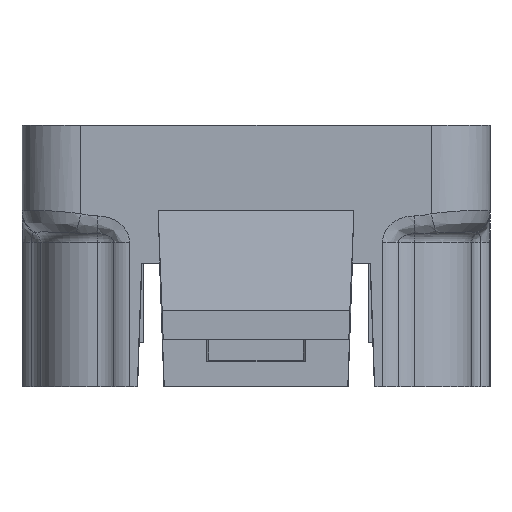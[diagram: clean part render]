
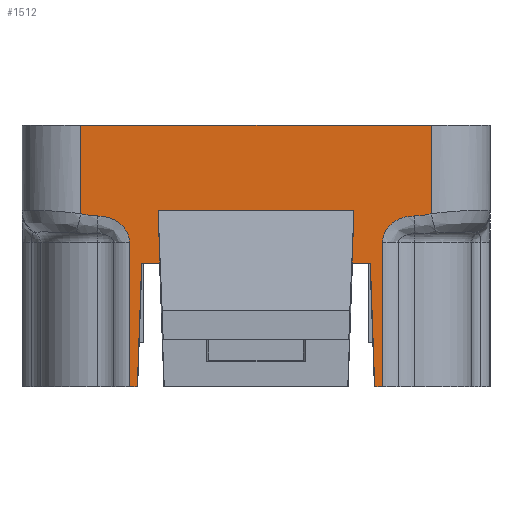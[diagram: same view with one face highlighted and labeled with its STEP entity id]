
A CAD part, left-side view. The second image highlights one B-rep face of the part: STEP entity #1512.
In plain terms, the highlighted planar face has unit normal (-1, 0, 0).
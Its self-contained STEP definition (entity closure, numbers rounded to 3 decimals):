
#1133=FACE_OUTER_BOUND('',#2412,.T.);
#1512=ADVANCED_FACE('',(#1133),#1928,.T.);
#1928=PLANE('',#62305);
#2412=EDGE_LOOP('',(#4620,#4621,#4622,#4623,#4624,#4625,#4626,#4627,#4628,
#4629,#4630,#4631,#4632,#4633,#4634,#4635,#4636,#4637));
#4620=ORIENTED_EDGE('',*,*,#8673,.F.);
#4621=ORIENTED_EDGE('',*,*,#8674,.T.);
#4622=ORIENTED_EDGE('',*,*,#8675,.T.);
#4623=ORIENTED_EDGE('',*,*,#8676,.T.);
#4624=ORIENTED_EDGE('',*,*,#8662,.T.);
#4625=ORIENTED_EDGE('',*,*,#8677,.T.);
#4626=ORIENTED_EDGE('',*,*,#8678,.T.);
#4627=ORIENTED_EDGE('',*,*,#8679,.T.);
#4628=ORIENTED_EDGE('',*,*,#8680,.T.);
#4629=ORIENTED_EDGE('',*,*,#8681,.T.);
#4630=ORIENTED_EDGE('',*,*,#8682,.T.);
#4631=ORIENTED_EDGE('',*,*,#8683,.T.);
#4632=ORIENTED_EDGE('',*,*,#8684,.T.);
#4633=ORIENTED_EDGE('',*,*,#8685,.T.);
#4634=ORIENTED_EDGE('',*,*,#8686,.T.);
#4635=ORIENTED_EDGE('',*,*,#8687,.T.);
#4636=ORIENTED_EDGE('',*,*,#8688,.T.);
#4637=ORIENTED_EDGE('',*,*,#8689,.F.);
#7223=VERTEX_POINT('',#98182);
#7224=VERTEX_POINT('',#98184);
#7233=VERTEX_POINT('',#98208);
#7234=VERTEX_POINT('',#98209);
#7235=VERTEX_POINT('',#98214);
#7236=VERTEX_POINT('',#98221);
#7237=VERTEX_POINT('',#98224);
#7238=VERTEX_POINT('',#98226);
#7239=VERTEX_POINT('',#98228);
#7240=VERTEX_POINT('',#98230);
#7241=VERTEX_POINT('',#98232);
#7242=VERTEX_POINT('',#98234);
#7243=VERTEX_POINT('',#98236);
#7244=VERTEX_POINT('',#98238);
#7245=VERTEX_POINT('',#98240);
#7246=VERTEX_POINT('',#98247);
#7247=VERTEX_POINT('',#98252);
#7248=VERTEX_POINT('',#98254);
#8662=EDGE_CURVE('',#7224,#7223,#40117,.T.);
#8673=EDGE_CURVE('',#7233,#7234,#40125,.T.);
#8674=EDGE_CURVE('',#7233,#7235,#15792,.T.);
#8675=EDGE_CURVE('',#7235,#7236,#15793,.T.);
#8676=EDGE_CURVE('',#7236,#7224,#40126,.T.);
#8677=EDGE_CURVE('',#7223,#7237,#40127,.T.);
#8678=EDGE_CURVE('',#7237,#7238,#40128,.T.);
#8679=EDGE_CURVE('',#7238,#7239,#40129,.T.);
#8680=EDGE_CURVE('',#7239,#7240,#40130,.T.);
#8681=EDGE_CURVE('',#7240,#7241,#40131,.T.);
#8682=EDGE_CURVE('',#7241,#7242,#40132,.T.);
#8683=EDGE_CURVE('',#7242,#7243,#40133,.T.);
#8684=EDGE_CURVE('',#7243,#7244,#40134,.T.);
#8685=EDGE_CURVE('',#7244,#7245,#40135,.T.);
#8686=EDGE_CURVE('',#7245,#7246,#15794,.T.);
#8687=EDGE_CURVE('',#7246,#7247,#15795,.T.);
#8688=EDGE_CURVE('',#7247,#7248,#40136,.T.);
#8689=EDGE_CURVE('',#7234,#7248,#40137,.T.);
#15792=B_SPLINE_CURVE_WITH_KNOTS('',3,(#98210,#98211,#98212,#98213),
 .UNSPECIFIED.,.F.,.F.,(4,4),(0.,1.),.UNSPECIFIED.);
#15793=B_SPLINE_CURVE_WITH_KNOTS('',3,(#98215,#98216,#98217,#98218,#98219,
#98220),.UNSPECIFIED.,.F.,.F.,(4,2,4),(0.,0.5,1.),.UNSPECIFIED.);
#15794=B_SPLINE_CURVE_WITH_KNOTS('',3,(#98241,#98242,#98243,#98244,#98245,
#98246),.UNSPECIFIED.,.F.,.F.,(4,2,4),(0.,0.5,1.),.UNSPECIFIED.);
#15795=B_SPLINE_CURVE_WITH_KNOTS('',3,(#98248,#98249,#98250,#98251),
 .UNSPECIFIED.,.F.,.F.,(4,4),(0.,1.),.UNSPECIFIED.);
#40117=LINE('',#98183,#43887);
#40125=LINE('',#98207,#43895);
#40126=LINE('',#98222,#43896);
#40127=LINE('',#98223,#43897);
#40128=LINE('',#98225,#43898);
#40129=LINE('',#98227,#43899);
#40130=LINE('',#98229,#43900);
#40131=LINE('',#98231,#43901);
#40132=LINE('',#98233,#43902);
#40133=LINE('',#98235,#43903);
#40134=LINE('',#98237,#43904);
#40135=LINE('',#98239,#43905);
#40136=LINE('',#98253,#43906);
#40137=LINE('',#98255,#43907);
#43887=VECTOR('',#66461,1.);
#43895=VECTOR('',#66483,1.);
#43896=VECTOR('',#66484,1.);
#43897=VECTOR('',#66485,1.);
#43898=VECTOR('',#66486,1.);
#43899=VECTOR('',#66487,1.);
#43900=VECTOR('',#66488,1.);
#43901=VECTOR('',#66489,1.);
#43902=VECTOR('',#66490,1.);
#43903=VECTOR('',#66491,1.);
#43904=VECTOR('',#66492,1.);
#43905=VECTOR('',#66493,1.);
#43906=VECTOR('',#66494,1.);
#43907=VECTOR('',#66495,1.);
#62305=AXIS2_PLACEMENT_3D('',#98256,#66496,#66497);
#66461=DIRECTION('',(0.,-1.,0.));
#66483=DIRECTION('',(0.,0.,1.));
#66484=DIRECTION('',(0.,0.,-1.));
#66485=DIRECTION('',(0.,-0.035,0.999));
#66486=DIRECTION('',(0.,-1.,0.));
#66487=DIRECTION('',(0.,0.035,0.999));
#66488=DIRECTION('',(0.,-1.,0.));
#66489=DIRECTION('',(0.,0.035,-0.999));
#66490=DIRECTION('',(0.,-1.,0.));
#66491=DIRECTION('',(0.,-0.035,-0.999));
#66492=DIRECTION('',(0.,-1.,0.));
#66493=DIRECTION('',(0.,0.,1.));
#66494=DIRECTION('',(0.,0.,1.));
#66495=DIRECTION('',(0.,-1.,0.));
#66496=DIRECTION('',(-1.,0.,0.));
#66497=DIRECTION('',(0.,-1.,0.));
#98182=CARTESIAN_POINT('',(-58.3,10.095,-21.25));
#98183=CARTESIAN_POINT('',(-58.3,14.9,-21.25));
#98184=CARTESIAN_POINT('',(-58.3,10.759,-21.25));
#98207=CARTESIAN_POINT('',(-58.3,14.9,-21.25));
#98208=CARTESIAN_POINT('',(-58.3,14.9,-6.533));
#98209=CARTESIAN_POINT('',(-58.3,14.9,1.));
#98210=CARTESIAN_POINT('',(-58.3,14.9,-6.533));
#98211=CARTESIAN_POINT('',(-58.3,14.432,-6.642));
#98212=CARTESIAN_POINT('',(-58.3,13.96,-6.723));
#98213=CARTESIAN_POINT('',(-58.3,13.477,-6.72));
#98214=CARTESIAN_POINT('',(-58.3,13.477,-6.72));
#98215=CARTESIAN_POINT('',(-58.3,13.477,-6.72));
#98216=CARTESIAN_POINT('',(-58.3,12.815,-6.717));
#98217=CARTESIAN_POINT('',(-58.3,12.148,-6.901));
#98218=CARTESIAN_POINT('',(-58.3,11.104,-7.704));
#98219=CARTESIAN_POINT('',(-58.3,10.759,-8.335));
#98220=CARTESIAN_POINT('',(-58.3,10.759,-9.));
#98221=CARTESIAN_POINT('',(-58.3,10.759,-9.));
#98222=CARTESIAN_POINT('',(-58.3,10.759,-21.25));
#98223=CARTESIAN_POINT('',(-58.3,10.101,-21.418));
#98224=CARTESIAN_POINT('',(-58.3,9.727,-10.722));
#98225=CARTESIAN_POINT('',(-58.3,14.9,-10.722));
#98226=CARTESIAN_POINT('',(-58.3,8.173,-10.722));
#98227=CARTESIAN_POINT('',(-58.3,8.172,-10.747));
#98228=CARTESIAN_POINT('',(-58.3,8.33,-6.243));
#98229=CARTESIAN_POINT('',(-58.3,8.2,-6.243));
#98230=CARTESIAN_POINT('',(-58.3,-8.33,-6.243));
#98231=CARTESIAN_POINT('',(-58.3,-7.777,-22.042));
#98232=CARTESIAN_POINT('',(-58.3,-8.173,-10.722));
#98233=CARTESIAN_POINT('',(-58.3,14.9,-10.722));
#98234=CARTESIAN_POINT('',(-58.3,-9.727,-10.722));
#98235=CARTESIAN_POINT('',(-58.3,-10.064,-20.378));
#98236=CARTESIAN_POINT('',(-58.3,-10.095,-21.25));
#98237=CARTESIAN_POINT('',(-58.3,14.9,-21.25));
#98238=CARTESIAN_POINT('',(-58.3,-10.759,-21.25));
#98239=CARTESIAN_POINT('',(-58.3,-10.759,-8.));
#98240=CARTESIAN_POINT('',(-58.3,-10.759,-9.));
#98241=CARTESIAN_POINT('',(-58.3,-10.759,-9.));
#98242=CARTESIAN_POINT('',(-58.3,-10.759,-8.335));
#98243=CARTESIAN_POINT('',(-58.3,-11.104,-7.704));
#98244=CARTESIAN_POINT('',(-58.3,-12.148,-6.901));
#98245=CARTESIAN_POINT('',(-58.3,-12.815,-6.717));
#98246=CARTESIAN_POINT('',(-58.3,-13.477,-6.72));
#98247=CARTESIAN_POINT('',(-58.3,-13.477,-6.72));
#98248=CARTESIAN_POINT('',(-58.3,-13.477,-6.72));
#98249=CARTESIAN_POINT('',(-58.3,-13.96,-6.723));
#98250=CARTESIAN_POINT('',(-58.3,-14.432,-6.642));
#98251=CARTESIAN_POINT('',(-58.3,-14.9,-6.533));
#98252=CARTESIAN_POINT('',(-58.3,-14.9,-6.533));
#98253=CARTESIAN_POINT('',(-58.3,-14.9,-21.25));
#98254=CARTESIAN_POINT('',(-58.3,-14.9,1.));
#98255=CARTESIAN_POINT('',(-58.3,-14.9,1.));
#98256=CARTESIAN_POINT('',(-58.3,14.9,-21.25));
